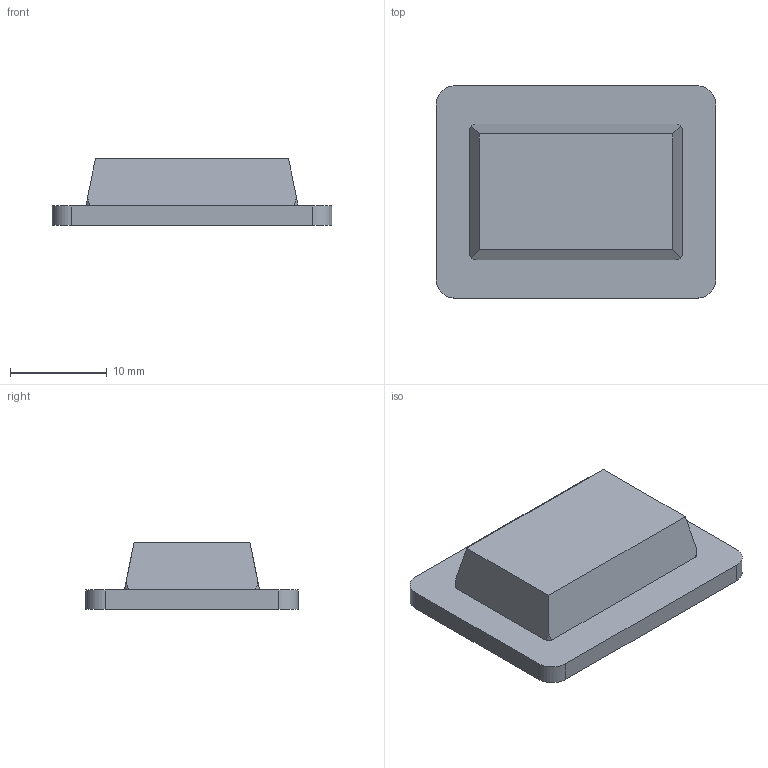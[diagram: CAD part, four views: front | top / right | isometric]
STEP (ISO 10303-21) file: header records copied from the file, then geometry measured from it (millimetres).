
FILE_DESCRIPTION(('Open CASCADE Model'),'2;1');
FILE_NAME('Open CASCADE Shape Model','2026-09-28T14:43:50',('Author'),( 'Open CASCADE'),'Open CASCADE STEP processor 7.8','Open CASCADE 7.8' ,'Unknown');
FILE_SCHEMA(('AUTOMOTIVE_DESIGN { 1 0 10303 214 1 1 1 1 }'));
Length unit declared in the file: millimetre
Products named in the file (1): Open CASCADE STEP translator 7.8 3
Bounding box: 29 x 22 x 6.9 mm (x, y, z)
Volume: 2608.4 mm3; surface area: 1738.2 mm2
Topology: 1 solids, 1 shells, 19 faces, 48 edges, 32 vertices
Faces by surface type: cylinder 8, plane 7, bspline 4
Entity records: 1854 total; most frequent: CARTESIAN_POINT 924, DIRECTION 154, ORIENTED_EDGE 96, PCURVE 96, DEFINITIONAL_REPRESENTATION 96, LINE 88, VECTOR 88, EDGE_CURVE 48
